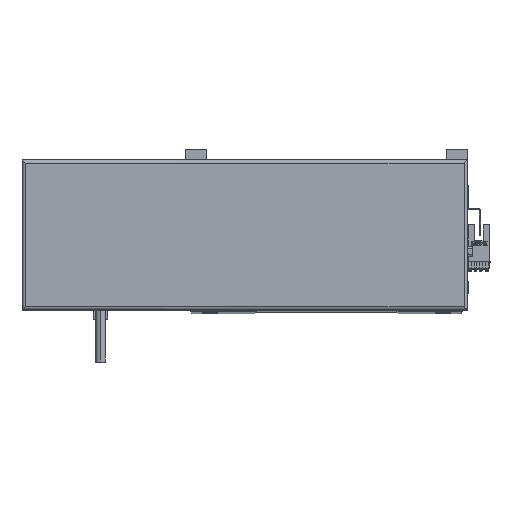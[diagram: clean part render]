
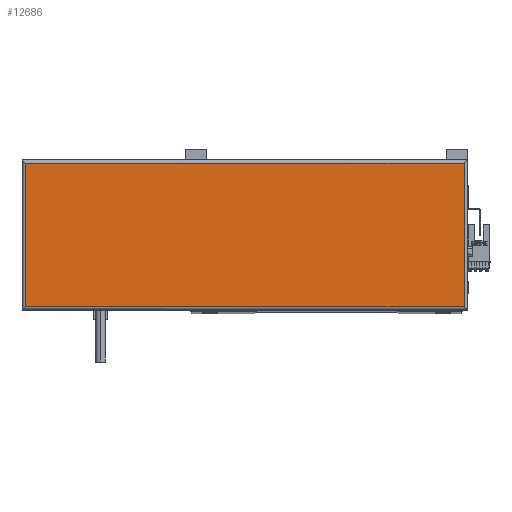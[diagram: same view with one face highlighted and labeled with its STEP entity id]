
A CAD part, top view. The second image highlights one B-rep face of the part: STEP entity #12686.
In plain terms, the highlighted planar face has unit normal (0, 0, 1).
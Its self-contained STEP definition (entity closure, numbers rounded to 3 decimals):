
#1977 = DIRECTION ( 'NONE',  ( 0., 1., 0. ) ) ;
#2254 = VECTOR ( 'NONE', #1977, 1000. ) ;
#5770 = LINE ( 'NONE', #27962, #2254 ) ;
#7161 = CARTESIAN_POINT ( 'NONE',  ( 265., 88., 44.8 ) ) ;
#8345 = VECTOR ( 'NONE', #27165, 1000. ) ;
#9687 = ORIENTED_EDGE ( 'NONE', *, *, #21412, .T. ) ;
#12686 = ADVANCED_FACE ( 'NONE', ( #38358 ), #21991, .T. ) ;
#13567 = ORIENTED_EDGE ( 'NONE', *, *, #47615, .T. ) ;
#15385 = VERTEX_POINT ( 'NONE', #7161 ) ;
#16215 = ORIENTED_EDGE ( 'NONE', *, *, #18240, .T. ) ;
#16823 = AXIS2_PLACEMENT_3D ( 'NONE', #48026, #47881, #40370 ) ;
#18240 = EDGE_CURVE ( 'NONE', #25416, #15385, #5770, .T. ) ;
#18253 = LINE ( 'NONE', #45902, #8345 ) ;
#18290 = VECTOR ( 'NONE', #39749, 1000. ) ;
#18435 = CARTESIAN_POINT ( 'NONE',  ( 2., 2., 44.8 ) ) ;
#19443 = LINE ( 'NONE', #42075, #35100 ) ;
#19874 = VERTEX_POINT ( 'NONE', #26476 ) ;
#21083 = CARTESIAN_POINT ( 'NONE',  ( 267., 2., 44.8 ) ) ;
#21412 = EDGE_CURVE ( 'NONE', #19874, #34059, #19443, .T. ) ;
#21991 = PLANE ( 'NONE',  #16823 ) ;
#24765 = EDGE_LOOP ( 'NONE', ( #16215, #30921, #9687, #13567 ) ) ;
#25416 = VERTEX_POINT ( 'NONE', #31583 ) ;
#26352 = LINE ( 'NONE', #21083, #18290 ) ;
#26476 = CARTESIAN_POINT ( 'NONE',  ( 2., 88., 44.8 ) ) ;
#27165 = DIRECTION ( 'NONE',  ( -1., 0., 0. ) ) ;
#27962 = CARTESIAN_POINT ( 'NONE',  ( 265., 90., 44.8 ) ) ;
#30921 = ORIENTED_EDGE ( 'NONE', *, *, #48034, .T. ) ;
#31583 = CARTESIAN_POINT ( 'NONE',  ( 265., 2., 44.8 ) ) ;
#34059 = VERTEX_POINT ( 'NONE', #18435 ) ;
#35100 = VECTOR ( 'NONE', #40284, 1000. ) ;
#38358 = FACE_OUTER_BOUND ( 'NONE', #24765, .T. ) ;
#39749 = DIRECTION ( 'NONE',  ( 1., 0., 0. ) ) ;
#40284 = DIRECTION ( 'NONE',  ( 0., -1., 0. ) ) ;
#40370 = DIRECTION ( 'NONE',  ( 1., 0., 0. ) ) ;
#42075 = CARTESIAN_POINT ( 'NONE',  ( 2., 0., 44.8 ) ) ;
#45902 = CARTESIAN_POINT ( 'NONE',  ( 0., 88., 44.8 ) ) ;
#47615 = EDGE_CURVE ( 'NONE', #34059, #25416, #26352, .T. ) ;
#47881 = DIRECTION ( 'NONE',  ( 0., 0., 1. ) ) ;
#48026 = CARTESIAN_POINT ( 'NONE',  ( 133.5, 45., 44.8 ) ) ;
#48034 = EDGE_CURVE ( 'NONE', #15385, #19874, #18253, .T. ) ;
